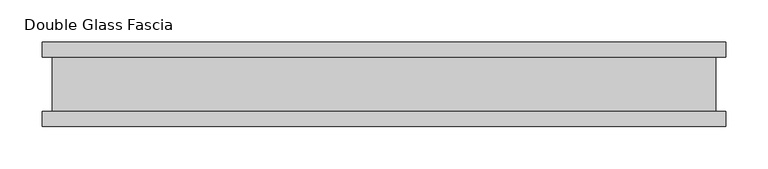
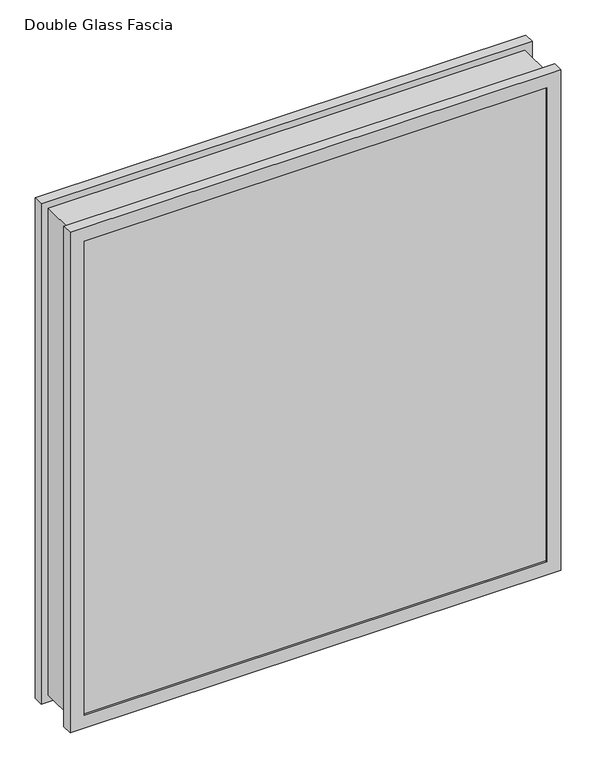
"""IFC4 building model written with IfcOpenShell, lengths in millimetres: proxy geometry, Glass_Fascia-Teknion-FHSG2-Double_Square_Corner-R2022 : Double Glass Fascia."""

from ifc_helpers import new_model, si_unit, frame, origin, place, context, project, spatial, polyline, outline, extrude, faceted_brep, source, transform, mapped, element, save


def double_glass_fascia_0ea4c1b9(model_context):
    return source(origin(), model_context, "Body", "SolidModel", [
        faceted_brep([(392.6640848, -32.4352299, 863.600885), (392.6640848, -32.4352299, 15.0359151), (392.6640848, 32.4352299, 15.0359151), (392.6640848, 32.4352299, 863.600885), (-392.6640848, -32.4352299, 15.0359151), (-392.6640848, 32.4352299, 15.0359151), (-392.6640848, -32.4352299, 863.600885), (-392.6640848, 32.4352299, 863.600885), (381.4871999, 38.8962152, 852.4240001), (381.4871999, 38.8962152, 26.2128), (381.4871999, -38.8962152, 26.2128), (381.4871999, -38.8962152, 852.4240001), (398.2218392, 47.1322551, 869.1586393), (398.2218392, 47.1322551, 9.4781608), (398.2218392, 38.8962152, 9.4781608), (398.2218392, 38.8962152, 869.1586393), (381.3093999, 50.0558594, 852.2462001), (381.3093999, 50.0558594, 26.3906), (381.3093999, 47.1322551, 26.3906), (381.3093999, 47.1322551, 852.2462001), (404.5249999, 32.4352299, 875.4618001), (404.5249999, 32.4352299, 3.175), (404.5249999, 50.0558594, 3.175), (404.5249999, 50.0558594, 875.4618001), (-381.4871999, 38.8962152, 26.2128), (-381.4871999, -38.8962152, 26.2128), (-398.2218392, 47.1322551, 9.4781608), (-398.2218392, 38.8962152, 9.4781608), (-381.3093999, 50.0558594, 26.3906), (-381.3093999, 47.1322551, 26.3906), (-404.5249999, 32.4352299, 3.175), (-404.5249999, 50.0558594, 3.175), (-381.4871999, 38.8962152, 852.4240001), (-381.4871999, -38.8962152, 852.4240001), (-398.2218392, 47.1322551, 869.1586393), (-398.2218392, 38.8962152, 869.1586393), (-381.3093999, 50.0558594, 852.2462001), (-381.3093999, 47.1322551, 852.2462001), (-404.5249999, 32.4352299, 875.4618001), (-404.5249999, 50.0558594, 875.4618001), (404.5249999, -50.0558594, 875.4618001), (404.5249999, -50.0558594, 3.175), (404.5249999, -32.4352299, 3.175), (404.5249999, -32.4352299, 875.4618001), (381.4871999, -47.1322551, 852.4240001), (381.4871999, -47.1322551, 26.2128), (381.4871999, -50.0558594, 26.2128), (381.4871999, -50.0558594, 852.4240001), (398.2218392, -38.8962152, 869.1586393), (398.2218392, -38.8962152, 9.4781608), (398.2218392, -47.1322551, 9.4781608), (398.2218392, -47.1322551, 869.1586393), (-404.5249999, -50.0558594, 3.175), (-404.5249999, -32.4352299, 3.175), (-381.4871999, -47.1322551, 26.2128), (-381.4871999, -50.0558594, 26.2128), (-398.2218392, -38.8962152, 9.4781608), (-398.2218392, -47.1322551, 9.4781608), (-404.5249999, -50.0558594, 875.4618001), (-404.5249999, -32.4352299, 875.4618001), (-381.4871999, -47.1322551, 852.4240001), (-381.4871999, -50.0558594, 852.4240001), (-398.2218392, -38.8962152, 869.1586393), (-398.2218392, -47.1322551, 869.1586393)], [[[0, 1, 2, 3]], [[1, 4, 5, 2]], [[4, 6, 7, 5]], [[6, 0, 3, 7]], [[8, 9, 10, 11]], [[12, 13, 14, 15]], [[16, 17, 18, 19]], [[20, 21, 22, 23]], [[9, 24, 25, 10]], [[13, 26, 27, 14]], [[17, 28, 29, 18]], [[21, 30, 31, 22]], [[24, 32, 33, 25]], [[26, 34, 35, 27]], [[28, 36, 37, 29]], [[30, 38, 39, 31]], [[32, 8, 11, 33]], [[15, 14, 27, 35], [9, 8, 32, 24]], [[34, 12, 15, 35]], [[13, 12, 34, 26], [19, 18, 29, 37]], [[36, 16, 19, 37]], [[23, 22, 31, 39], [17, 16, 36, 28]], [[38, 20, 23, 39]], [[21, 20, 38, 30], [3, 2, 5, 7]], [[40, 41, 42, 43]], [[44, 45, 46, 47]], [[48, 49, 50, 51]], [[41, 52, 53, 42]], [[45, 54, 55, 46]], [[49, 56, 57, 50]], [[52, 58, 59, 53]], [[54, 60, 61, 55]], [[56, 62, 63, 57]], [[43, 42, 53, 59], [1, 0, 6, 4]], [[58, 40, 43, 59]], [[41, 40, 58, 52], [47, 46, 55, 61]], [[60, 44, 47, 61]], [[51, 50, 57, 63], [45, 44, 60, 54]], [[62, 48, 51, 63]], [[49, 48, 62, 56], [11, 10, 25, 33]]]),
        extrude(outline(polyline([(393.7, 40.9277344), (-393.7, 40.9277344), (-393.7, 46.8808594), (393.7, 46.8808594), (393.7, 40.9277344)])), frame((0.0, 0.0, 5.3275263), z_axis=(0.0, 0.0, 1.0), x_axis=(1.0, 0.0, 0.0)), (0.0, 0.0, 1.0), 867.4877281),
        extrude(outline(polyline([(393.7, -41.1791301), (393.7, -47.1322551), (-393.7, -47.1322551), (-393.7, -41.1791301), (393.7, -41.1791301)])), frame((0.0, 0.0, 5.3275263), z_axis=(0.0, 0.0, 1.0), x_axis=(1.0, 0.0, 0.0)), (0.0, 0.0, 1.0), 867.4877281),
    ])


if __name__ == "__main__":
    model = new_model("IFC4")
    model_context = context("Model", 3, world=origin())
    ifc_project = project(units=[si_unit("LENGTHUNIT", "METRE", prefix="MILLI")], contexts=[model_context])
    site = spatial("IfcSite", under=ifc_project)
    building = spatial("IfcBuilding", under=site)
    placement = place(None, origin())
    double_glass_fascia_shape = double_glass_fascia_0ea4c1b9(model_context)
    element("IfcBuildingElementProxy", 1, Name="Glass_Fascia-Teknion-FHSG2-Double_Square_Corner-R2022 : Double Glass Fascia", ObjectType="Glass_Fascia-Teknion-FHSG2-Double_Square_Corner-R2022 : Double Glass Fascia", at=placement, inside=building, context=model_context, shape_type="MappedRepresentation", body=[
        mapped(double_glass_fascia_shape, transform((0.0, 0.0, 0.0), x_axis=(1.0, 0.0, 0.0), y_axis=(0.0, 1.0, 0.0), z_axis=(0.0, 0.0, 1.0))),
    ])
    save(model, "model.ifc")
